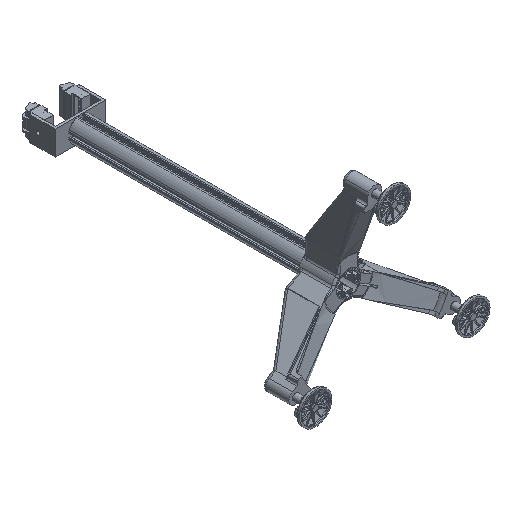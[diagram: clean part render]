
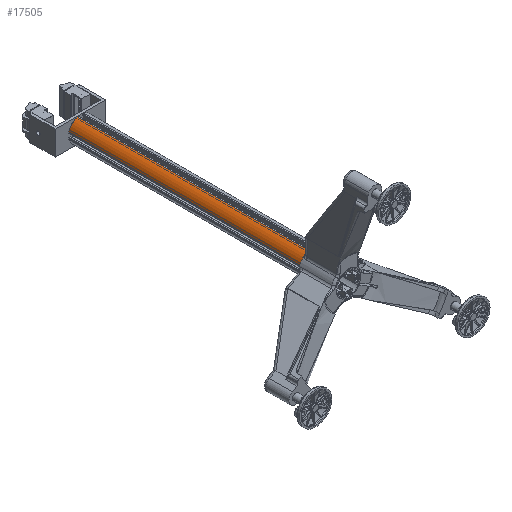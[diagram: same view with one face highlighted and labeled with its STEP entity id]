
A CAD part, isometric view. The second image highlights one B-rep face of the part: STEP entity #17505.
In plain terms, the highlighted cylindrical face has radius 30.15 mm (diameter 60.3 mm), a partial arc.
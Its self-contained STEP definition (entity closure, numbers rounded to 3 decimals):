
#17442 = ORIENTED_EDGE ( 'NONE', *, *, #17508, .F. ) ;
#17445 = ORIENTED_EDGE ( 'NONE', *, *, #17492, .T. ) ;
#17460 = VERTEX_POINT ( 'NONE', #27491 ) ;
#17492 = EDGE_CURVE ( 'NONE', #17509, #17493, #27570, .T. ) ;
#17493 = VERTEX_POINT ( 'NONE', #27618 ) ;
#17494 = EDGE_CURVE ( 'NONE', #17493, #17460, #27613, .T. ) ;
#17495 = ORIENTED_EDGE ( 'NONE', *, *, #17494, .T. ) ;
#17502 = EDGE_LOOP ( 'NONE', ( #17442, #17506, #17445, #17495 ) ) ;
#17505 = ADVANCED_FACE ( 'NONE', ( #27615 ), #27591, .T. ) ;
#17506 = ORIENTED_EDGE ( 'NONE', *, *, #17507, .F. ) ;
#17507 = EDGE_CURVE ( 'NONE', #17509, #17515, #27646, .T. ) ;
#17508 = EDGE_CURVE ( 'NONE', #17515, #17460, #27648, .T. ) ;
#17509 = VERTEX_POINT ( 'NONE', #27642 ) ;
#17515 = VERTEX_POINT ( 'NONE', #27649 ) ;
#27491 = CARTESIAN_POINT ( 'NONE',  ( -8.248, 0., 29. ) ) ;
#27554 = CARTESIAN_POINT ( 'NONE',  ( 0., -662., 0. ) ) ;
#27560 = AXIS2_PLACEMENT_3D ( 'NONE', #27651, #27596, #27647 ) ;
#27564 = AXIS2_PLACEMENT_3D ( 'NONE', #27554, #27619, #27616 ) ;
#27570 = CIRCLE ( 'NONE', #27564, 30.15 ) ;
#27591 = CYLINDRICAL_SURFACE ( 'NONE', #27560, 30.15 ) ;
#27596 = DIRECTION ( 'NONE',  ( 0., 1., 0. ) ) ;
#27608 = AXIS2_PLACEMENT_3D ( 'NONE', #27650, #27636, #27635 ) ;
#27610 = DIRECTION ( 'NONE',  ( 0., 1., 0. ) ) ;
#27611 = VECTOR ( 'NONE', #27610, 1000. ) ;
#27612 = CARTESIAN_POINT ( 'NONE',  ( -8.248, -662., 29. ) ) ;
#27613 = LINE ( 'NONE', #27612, #27611 ) ;
#27615 = FACE_OUTER_BOUND ( 'NONE', #17502, .T. ) ;
#27616 = DIRECTION ( 'NONE',  ( 0., 0., 1. ) ) ;
#27618 = CARTESIAN_POINT ( 'NONE',  ( -8.248, -662., 29. ) ) ;
#27619 = DIRECTION ( 'NONE',  ( 0., 1., 0. ) ) ;
#27635 = DIRECTION ( 'NONE',  ( 0., 0., 1. ) ) ;
#27636 = DIRECTION ( 'NONE',  ( 0., 1., 0. ) ) ;
#27642 = CARTESIAN_POINT ( 'NONE',  ( -29., -662., 8.248 ) ) ;
#27643 = DIRECTION ( 'NONE',  ( 0., 1., 0. ) ) ;
#27644 = VECTOR ( 'NONE', #27643, 1000. ) ;
#27645 = CARTESIAN_POINT ( 'NONE',  ( -29., -662., 8.248 ) ) ;
#27646 = LINE ( 'NONE', #27645, #27644 ) ;
#27647 = DIRECTION ( 'NONE',  ( 0., 0., 1. ) ) ;
#27648 = CIRCLE ( 'NONE', #27608, 30.15 ) ;
#27649 = CARTESIAN_POINT ( 'NONE',  ( -29., 0., 8.248 ) ) ;
#27650 = CARTESIAN_POINT ( 'NONE',  ( 0., 0., 0. ) ) ;
#27651 = CARTESIAN_POINT ( 'NONE',  ( 0., -662., 0. ) ) ;
